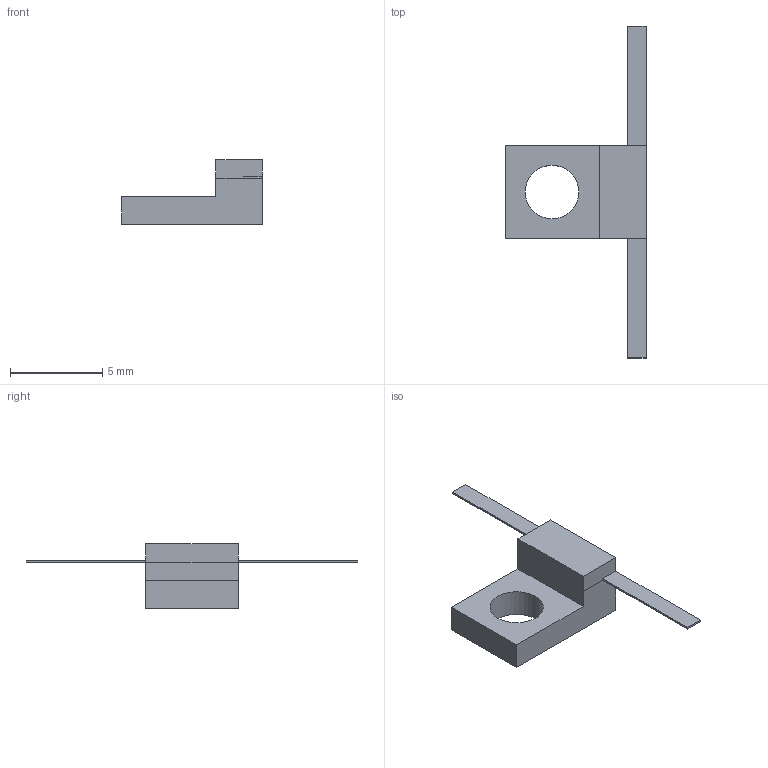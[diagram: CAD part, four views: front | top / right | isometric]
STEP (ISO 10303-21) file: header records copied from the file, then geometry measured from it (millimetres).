
FILE_DESCRIPTION(('STEP AP203'), '1');
FILE_NAME('ÏÐ1-22-10-4', '', ('UNSPECIFIED'), ('UNSPECIFIED'), 'C3D Converter', 'C3D Toolkit', '');
FILE_SCHEMA(('CONFIG_CONTROL_DESIGN'));
Length unit declared in the file: millimetre
Bounding box: 7.6 x 18 x 3.5 mm (x, y, z)
Volume: 73.4 mm3; surface area: 198.3 mm2
Topology: 4 solids, 4 shells, 27 faces, 57 edges, 38 vertices
Faces by surface type: plane 26, cylinder 1
Full cylindrical faces by diameter (mm): 2.9 x1
Entity records: 977 total; most frequent: CARTESIAN_POINT 120, DIRECTION 114, ORIENTED_EDGE 112, EDGE_CURVE 56, LINE 54, VECTOR 54, VERTEX_POINT 36, COLOUR_RGB 31
